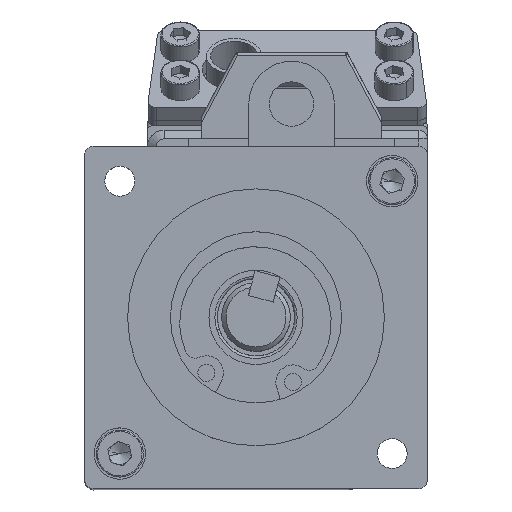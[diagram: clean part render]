
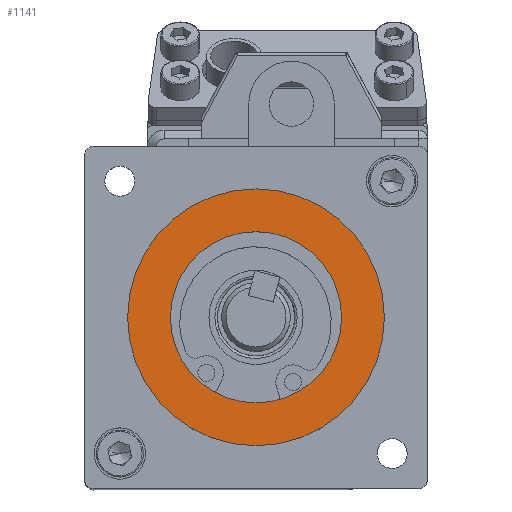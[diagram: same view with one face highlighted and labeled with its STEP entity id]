
A CAD part, top view. The second image highlights one B-rep face of the part: STEP entity #1141.
In plain terms, the highlighted planar face has unit normal (0, 0, 1).
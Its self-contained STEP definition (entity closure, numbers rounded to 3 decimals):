
#1008 = EDGE_CURVE ( 'NONE', #1009, #1010, #6975, .T. ) ;
#1009 = VERTEX_POINT ( 'NONE', #7029 ) ;
#1010 = VERTEX_POINT ( 'NONE', #7028 ) ;
#1034 = ORIENTED_EDGE ( 'NONE', *, *, #1137, .T. ) ;
#1035 = ORIENTED_EDGE ( 'NONE', *, *, #1149, .T. ) ;
#1137 = EDGE_CURVE ( 'NONE', #1151, #1150, #7272, .T. ) ;
#1141 = ADVANCED_FACE ( 'NONE', ( #7262, #7261 ), #7260, .T. ) ;
#1142 = EDGE_LOOP ( 'NONE', ( #1143, #1144 ) ) ;
#1143 = ORIENTED_EDGE ( 'NONE', *, *, #1008, .F. ) ;
#1144 = ORIENTED_EDGE ( 'NONE', *, *, #1145, .F. ) ;
#1145 = EDGE_CURVE ( 'NONE', #1010, #1009, #7258, .T. ) ;
#1146 = EDGE_LOOP ( 'NONE', ( #1034, #1035 ) ) ;
#1149 = EDGE_CURVE ( 'NONE', #1150, #1151, #7244, .T. ) ;
#1150 = VERTEX_POINT ( 'NONE', #7239 ) ;
#1151 = VERTEX_POINT ( 'NONE', #7238 ) ;
#6971 = DIRECTION ( 'NONE',  ( -1., 0., 0. ) ) ;
#6972 = DIRECTION ( 'NONE',  ( 0., 0., -1. ) ) ;
#6973 = CARTESIAN_POINT ( 'NONE',  ( 68.478, 20., 115.595 ) ) ;
#6974 = AXIS2_PLACEMENT_3D ( 'NONE', #6973, #6972, #6971 ) ;
#6975 = CIRCLE ( 'NONE', #6974, 15. ) ;
#7028 = CARTESIAN_POINT ( 'NONE',  ( 83.478, 20., 115.595 ) ) ;
#7029 = CARTESIAN_POINT ( 'NONE',  ( 53.478, 20., 115.595 ) ) ;
#7238 = CARTESIAN_POINT ( 'NONE',  ( 58.478, 20., 115.595 ) ) ;
#7239 = CARTESIAN_POINT ( 'NONE',  ( 78.478, 20., 115.595 ) ) ;
#7240 = DIRECTION ( 'NONE',  ( -1., 0., 0. ) ) ;
#7241 = DIRECTION ( 'NONE',  ( 0., 0., -1. ) ) ;
#7242 = CARTESIAN_POINT ( 'NONE',  ( 68.478, 20., 115.595 ) ) ;
#7243 = AXIS2_PLACEMENT_3D ( 'NONE', #7242, #7241, #7240 ) ;
#7244 = CIRCLE ( 'NONE', #7243, 10. ) ;
#7251 = DIRECTION ( 'NONE',  ( -1., 0., 0. ) ) ;
#7252 = DIRECTION ( 'NONE',  ( 0., 0., -1. ) ) ;
#7253 = CARTESIAN_POINT ( 'NONE',  ( 68.478, 20., 115.595 ) ) ;
#7254 = AXIS2_PLACEMENT_3D ( 'NONE', #7253, #7252, #7251 ) ;
#7255 = DIRECTION ( 'NONE',  ( 1., 0., 0. ) ) ;
#7256 = DIRECTION ( 'NONE',  ( 0., 0., 1. ) ) ;
#7257 = AXIS2_PLACEMENT_3D ( 'NONE', #7259, #7256, #7255 ) ;
#7258 = CIRCLE ( 'NONE', #7254, 15. ) ;
#7259 = CARTESIAN_POINT ( 'NONE',  ( 68.478, 20., 115.595 ) ) ;
#7260 = PLANE ( 'NONE',  #7257 ) ;
#7261 = FACE_BOUND ( 'NONE', #1146, .T. ) ;
#7262 = FACE_OUTER_BOUND ( 'NONE', #1142, .T. ) ;
#7268 = DIRECTION ( 'NONE',  ( -1., 0., 0. ) ) ;
#7269 = DIRECTION ( 'NONE',  ( 0., 0., -1. ) ) ;
#7270 = CARTESIAN_POINT ( 'NONE',  ( 68.478, 20., 115.595 ) ) ;
#7271 = AXIS2_PLACEMENT_3D ( 'NONE', #7270, #7269, #7268 ) ;
#7272 = CIRCLE ( 'NONE', #7271, 10. ) ;
